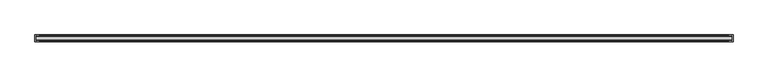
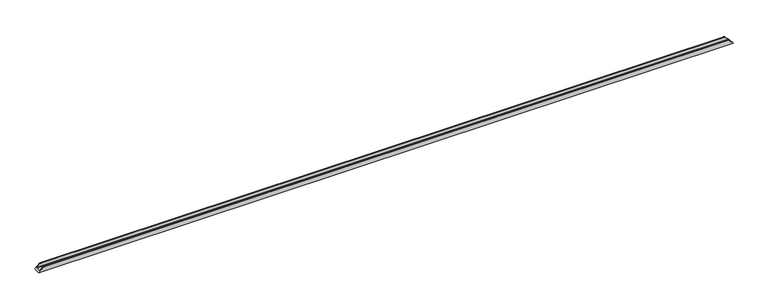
"""IFC4 building model written with IfcOpenShell, lengths in millimetres: proxy geometry, Weiku - Montante - Caixilho único 02.3.02.403 : Weiku - Montante - Caixilho único 02.3.02.403."""

from ifc_helpers import new_model, si_unit, frame, origin, place, context, project, spatial, ellipse_curve, source, transform, mapped, element, save
from ifc_brep_helpers import plane_surface, cylinder_surface, advanced_brep


def generic_models_0babf949(model_context):
    return source(origin(), model_context, "Body", "AdvancedBrep", [
        advanced_brep(
        [(-3977.8, -9.8, 18.2), (3977.8, -9.8, 18.2), (3940.1, -9.8, 55.9), (-3940.1, -9.8, 55.9), (-3980.3000079, -63.85, 15.6999921), (3980.3000079, -63.85, 15.6999921), (3980.3000079, -15.05, 15.6999921), (-3980.3000079, -15.05, 15.6999921), (-3996.0, -78.9, 0.0), (-3996.0, 0.0, 0.0), (3996.0, 0.0, 0.0), (3996.0, -78.9, 0.0), (-3940.1, 0.0, 55.9), (3940.1, 0.0, 55.9), (-3939.6, -9.3, 56.4), (3939.6, -9.3, 56.4), (3939.6, -0.5, 56.4), (-3939.6, -0.5, 56.4), (-3977.8, -15.05, 18.2), (3977.8, -15.05, 18.2), (-3977.8, -63.85, 18.2), (3977.8, -63.85, 18.2), (-3977.8, -69.1, 18.2), (3977.8, -69.1, 18.2), (-3940.1, -69.1, 55.9), (3940.1, -69.1, 55.9), (-3939.6, -78.4, 56.4), (3939.6, -78.4, 56.4), (3939.6, -69.6, 56.4), (-3939.6, -69.6, 56.4), (-3940.1, -78.9, 55.9), (3940.1, -78.9, 55.9)],
        [
            (0, 1),
            (1, 2),
            (2, 3),
            (3, 0),
            (4, 5),
            (5, 6),
            (6, 7),
            (7, 4),
            (8, 9),
            (9, 10),
            (10, 11),
            (11, 8),
            (9, 12),
            (12, 13),
            (13, 10),
            (14, 15),
            (15, 16),
            (16, 17),
            (17, 14),
            (18, 19),
            (19, 1),
            (0, 18),
            (6, 19),
            (18, 7),
            (16, 13, ellipse_curve(frame((3940.1, -0.5, 55.9), z_axis=(-0.7071067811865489, 0.0, -0.7071067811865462), x_axis=(-0.707106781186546, 0.0, 0.7071067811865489)), 0.7071068, 0.5)),
            (12, 17, ellipse_curve(frame((-3940.1, -0.5, 55.9), z_axis=(0.7071067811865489, 0.0, -0.7071067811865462), x_axis=(-0.707106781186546, 0.0, -0.7071067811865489)), 0.7071068, 0.5)),
            (20, 21),
            (21, 5),
            (4, 20),
            (22, 23),
            (23, 21),
            (20, 22),
            (24, 25),
            (25, 23),
            (22, 24),
            (26, 27),
            (27, 28),
            (28, 29),
            (29, 26),
            (30, 31),
            (31, 27, ellipse_curve(frame((3940.1, -78.4, 55.9), z_axis=(-0.7071067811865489, 0.0, -0.7071067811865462), x_axis=(-0.707106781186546, 0.0, 0.7071067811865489)), 0.7071068, 0.5)),
            (26, 30, ellipse_curve(frame((-3940.1, -78.4, 55.9), z_axis=(0.7071067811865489, 0.0, -0.7071067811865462), x_axis=(-0.707106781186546, 0.0, -0.7071067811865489)), 0.7071068, 0.5)),
            (11, 31),
            (30, 8),
            (2, 15, ellipse_curve(frame((3940.1, -9.3, 55.9), z_axis=(-0.7071067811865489, 0.0, -0.7071067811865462), x_axis=(-0.707106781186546, 0.0, 0.7071067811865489)), 0.7071068, 0.5)),
            (14, 3, ellipse_curve(frame((-3940.1, -9.3, 55.9), z_axis=(0.7071067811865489, 0.0, -0.7071067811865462), x_axis=(-0.707106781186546, 0.0, -0.7071067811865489)), 0.7071068, 0.5)),
            (28, 25, ellipse_curve(frame((3940.1, -69.6, 55.9), z_axis=(-0.7071067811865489, 0.0, -0.7071067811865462), x_axis=(-0.707106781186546, 0.0, 0.7071067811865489)), 0.7071068, 0.5)),
            (24, 29, ellipse_curve(frame((-3940.1, -69.6, 55.9), z_axis=(0.7071067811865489, 0.0, -0.7071067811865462), x_axis=(-0.707106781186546, 0.0, -0.7071067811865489)), 0.7071068, 0.5)),
        ],
        [
            plane_surface(frame((-3996.0, -9.8, 55.9), z_axis=(0.0, -1.0, 0.0), x_axis=(1.0, 0.0, 0.0))),
            plane_surface(frame((-3996.0, -15.05, 15.6999921), z_axis=(0.0, 0.0, 1.0), x_axis=(1.0, 0.0, 0.0))),
            plane_surface(frame((-3996.0, -78.9, 0.0), z_axis=(0.0, 0.0, -1.0), x_axis=(1.0, 0.0, 0.0))),
            plane_surface(frame((-3996.0, 0.0, 0.0), z_axis=(0.0, 1.0, 0.0), x_axis=(1.0, 0.0, 0.0))),
            plane_surface(frame((-3996.0, -0.5, 56.4), z_axis=(0.0, 0.0, 1.0), x_axis=(1.0, 0.0, 0.0))),
            plane_surface(frame((-3996.0, -9.8, 18.2), z_axis=(0.0, 0.0, 1.0), x_axis=(1.0, 0.0, 0.0))),
            plane_surface(frame((-3996.0, -15.05, 18.2), z_axis=(0.0, -1.0, 0.0), x_axis=(1.0, 0.0, 0.0))),
            cylinder_surface(frame((-3996.0, -0.5, 55.9), z_axis=(-1.0, 0.0, 0.0), x_axis=(0.0, -1.0, 0.0)), 0.5),
            plane_surface(frame((-3996.0, -63.85, 15.6999921), z_axis=(0.0, 1.0, 0.0), x_axis=(1.0, 0.0, 0.0))),
            plane_surface(frame((-3996.0, -63.85, 18.2), z_axis=(0.0, 0.0, 1.0), x_axis=(1.0, 0.0, 0.0))),
            plane_surface(frame((-3996.0, -69.1, 18.2), z_axis=(0.0, 1.0, 0.0), x_axis=(1.0, 0.0, 0.0))),
            plane_surface(frame((-3996.0, -69.6, 56.4), z_axis=(0.0, 0.0, 1.0), x_axis=(1.0, 0.0, 0.0))),
            cylinder_surface(frame((-3996.0, -78.4, 55.9), z_axis=(-1.0, 0.0, 0.0), x_axis=(0.0, 1.0, 0.0)), 0.5),
            plane_surface(frame((-3996.0, -78.9, 55.9), z_axis=(0.0, -1.0, 0.0), x_axis=(1.0, 0.0, 0.0))),
            cylinder_surface(frame((-3996.0, -9.3, 55.9), z_axis=(-1.0, 0.0, 0.0), x_axis=(0.0, -1.0, 0.0)), 0.5),
            cylinder_surface(frame((-3996.0, -69.6, 55.9), z_axis=(-1.0, 0.0, 0.0), x_axis=(0.0, -1.0, 0.0)), 0.5),
            plane_surface(frame((-3996.0, 0.0, 0.0), z_axis=(-0.7071067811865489, 0.0, 0.7071067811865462), x_axis=(0.0, -1.0, 0.0))),
            plane_surface(frame((3936.0, 0.0, 60.0), z_axis=(0.7071067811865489, 0.0, 0.7071067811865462), x_axis=(0.0, -1.0, 0.0))),
        ],
        [
            (0, [[1, 2, 3, 4]]),
            (1, [[5, 6, 7, 8]]),
            (2, [[9, 10, 11, 12]]),
            (3, [[13, 14, 15, -10]]),
            (4, [[16, 17, 18, 19]]),
            (5, [[20, 21, -1, 22]]),
            (6, [[-7, 23, -20, 24]]),
            (7, [[-18, 25, -14, 26]]),
            (8, [[27, 28, -5, 29]]),
            (9, [[30, 31, -27, 32]]),
            (10, [[33, 34, -30, 35]]),
            (11, [[36, 37, 38, 39]]),
            (12, [[40, 41, -36, 42]]),
            (13, [[43, -40, 44, -12]]),
            (14, [[-3, 45, -16, 46]]),
            (15, [[-38, 47, -33, 48]]),
            (16, [[-46, -19, -26, -13, -9, -44, -42, -39, -48, -35, -32, -29, -8, -24, -22, -4]]),
            (17, [[-21, -23, -6, -28, -31, -34, -47, -37, -41, -43, -11, -15, -25, -17, -45, -2]]),
        ],
    ),
    ])


if __name__ == "__main__":
    model = new_model("IFC4")
    model_context = context("Model", 3, world=origin())
    ifc_project = project(units=[si_unit("LENGTHUNIT", "METRE", prefix="MILLI")], contexts=[model_context])
    site = spatial("IfcSite", under=ifc_project)
    building = spatial("IfcBuilding", under=site)
    placement = place(None, origin())
    generic_models_shape = generic_models_0babf949(model_context)
    element("IfcBuildingElementProxy", 1, Name="Weiku - Montante - Caixilho único 02.3.02.403 : Weiku - Montante - Caixilho único 02.3.02.403", ObjectType="Weiku - Montante - Caixilho único 02.3.02.403 : Weiku - Montante - Caixilho único 02.3.02.403", at=placement, inside=building, context=model_context, shape_type="MappedRepresentation", body=[
        mapped(generic_models_shape, transform((0.0, 0.0, 0.0), x_axis=(1.0, 0.0, 0.0), y_axis=(0.0, 1.0, 0.0), z_axis=(0.0, 0.0, 1.0))),
    ])
    save(model, "model.ifc")
